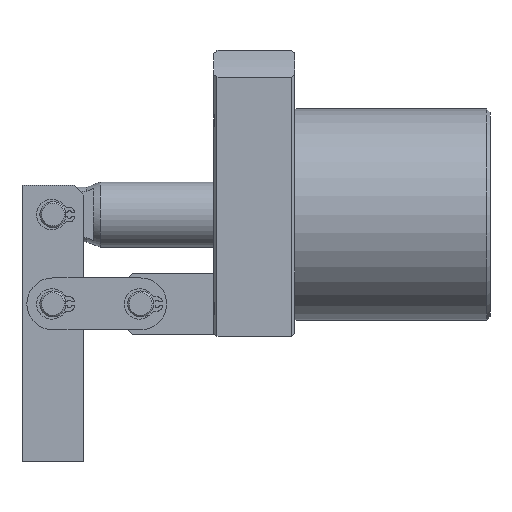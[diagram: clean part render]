
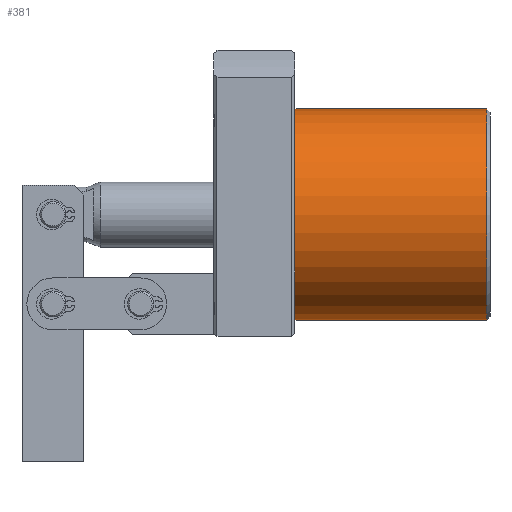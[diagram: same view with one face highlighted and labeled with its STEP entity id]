
A CAD part, left-side view. The second image highlights one B-rep face of the part: STEP entity #381.
In plain terms, the highlighted cylindrical face has radius 32.5 mm (diameter 65 mm), a full revolution.
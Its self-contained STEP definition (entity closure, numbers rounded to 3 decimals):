
#171=CYLINDRICAL_SURFACE('',#3648,32.5);
#268=FACE_BOUND('',#900,.T.);
#269=FACE_BOUND('',#901,.T.);
#381=ADVANCED_FACE('',(#268,#269),#171,.T.);
#900=EDGE_LOOP('',(#1422));
#901=EDGE_LOOP('',(#1423));
#1179=CIRCLE('',#3645,32.5);
#1180=CIRCLE('',#3647,32.5);
#1422=ORIENTED_EDGE('',*,*,#2672,.T.);
#1423=ORIENTED_EDGE('',*,*,#2667,.T.);
#2327=VERTEX_POINT('',#5231);
#2330=VERTEX_POINT('',#5240);
#2667=EDGE_CURVE('',#2327,#2327,#1179,.T.);
#2672=EDGE_CURVE('',#2330,#2330,#1180,.T.);
#3645=AXIS2_PLACEMENT_3D('',#5230,#4140,#4141);
#3647=AXIS2_PLACEMENT_3D('',#5239,#4148,#4149);
#3648=AXIS2_PLACEMENT_3D('',#5241,#4150,#4151);
#4140=DIRECTION('',(0.,-1.,0.));
#4141=DIRECTION('',(0.,0.,-1.));
#4148=DIRECTION('',(0.,1.,0.));
#4149=DIRECTION('',(0.,0.,1.));
#4150=DIRECTION('',(0.,-1.,0.));
#4151=DIRECTION('',(0.,0.,-1.));
#5230=CARTESIAN_POINT('',(0.,60.,0.));
#5231=CARTESIAN_POINT('',(0.,60.,-32.5));
#5239=CARTESIAN_POINT('',(0.,1.,0.));
#5240=CARTESIAN_POINT('',(0.,1.,32.5));
#5241=CARTESIAN_POINT('',(0.,0.,0.));
